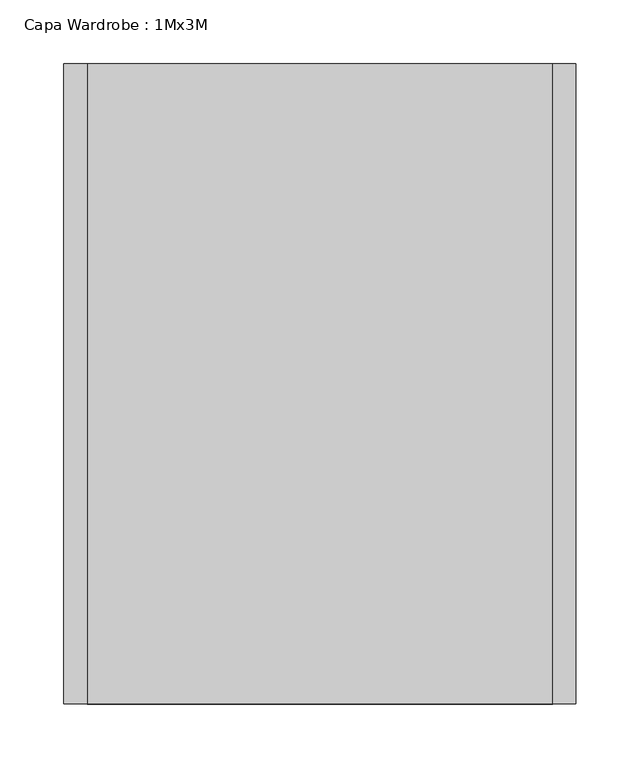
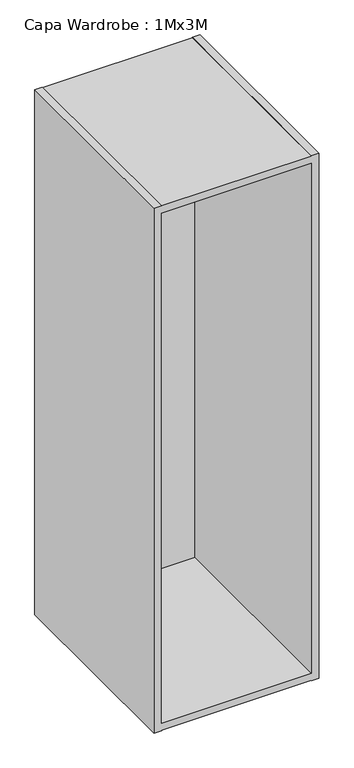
"""IFC4 building model written with IfcOpenShell, lengths in millimetres: furniture geometry, Capa Wardrobe : 1Mx3M."""

from ifc_helpers import new_model, si_unit, point, frame, frame_2d, origin, place, context, project, spatial, polyline, circle_curve, trimmed, segment, composite_curve, outline, extrude, faceted_brep, source, transform, mapped, element, save


def capa_wardrobe_1mx3m_da40f886(model_context):
    return source(origin(), model_context, "Body", "SolidModel", [
        extrude(outline(composite_curve([segment(polyline([(-250.0, 1244.0), (-250.0, 1224.0)]), True, "CONTINUOUS"), segment(trimmed(circle_curve(frame_2d((-258.0, 1224.0)), 8.0), [point((-250.0, 1224.0))], [point((-266.0, 1224.0))], False, "CARTESIAN"), True, "CONTINUOUS"), segment(polyline([(-266.0, 1224.0), (-266.0, 1244.0)]), True, "CONTINUOUS"), segment(trimmed(circle_curve(frame_2d((-258.0, 1244.0)), 8.0), [point((-266.0, 1244.0))], [point((-250.0, 1244.0))], False, "CARTESIAN"), True, "CONTINUOUS")], self_intersect=False)), frame((-182.0, 0.0, 0.0), z_axis=(1.0, 0.0, 0.0), x_axis=(0.0, 1.0, 0.0)), (0.0, 0.0, 1.0), 364.0),
        faceted_brep([(-182.0, 0.0, 1344.0), (-182.0, 0.0, 1343.0), (182.0, 0.0, 1343.0), (182.0, 0.0, 1344.0), (200.0, 0.0, 1344.0), (200.0, 0.0, 0.0), (182.0, 0.0, 0.0), (182.0, 0.0, 1.0), (-182.0, 0.0, 1.0), (-182.0, 0.0, 0.0), (-200.0, 0.0, 0.0), (-200.0, 0.0, 1344.0), (182.0, -10.0, 19.0), (182.0, -10.0, 1325.0), (-182.0, -10.0, 1325.0), (-182.0, -10.0, 19.0), (-182.0, -500.0, 1344.0), (-200.0, -500.0, 1344.0), (-200.0, -500.0, 0.0), (-182.0, -500.0, 0.0), (-182.0, -500.0, 1.0), (182.0, -500.0, 1.0), (182.0, -500.0, 0.0), (200.0, -500.0, 0.0), (200.0, -500.0, 1344.0), (182.0, -500.0, 1344.0), (182.0, -500.0, 1343.0), (-182.0, -500.0, 1343.0), (182.0, -500.0, 1325.0), (182.0, -500.0, 19.0), (-182.0, -500.0, 19.0), (-182.0, -500.0, 1325.0)], [[[0, 1, 2, 3, 4, 5, 6, 7, 8, 9, 10, 11]], [[12, 13, 14, 15]], [[16, 17, 18, 19, 20, 21, 22, 23, 24, 25, 26, 27], [28, 29, 30, 31]], [[17, 16, 0, 11]], [[18, 17, 11, 10]], [[23, 22, 6, 5]], [[24, 23, 5, 4]], [[19, 18, 10, 9]], [[20, 19, 9, 8]], [[21, 20, 8, 7]], [[22, 21, 7, 6]], [[25, 24, 4, 3]], [[26, 25, 3, 2]], [[27, 26, 2, 1]], [[16, 27, 1, 0]], [[29, 28, 13, 12]], [[30, 29, 12, 15]], [[31, 30, 15, 14]], [[28, 31, 14, 13]]]),
    ])


if __name__ == "__main__":
    model = new_model("IFC4")
    model_context = context("Model", 3, world=origin())
    ifc_project = project(units=[si_unit("LENGTHUNIT", "METRE", prefix="MILLI")], contexts=[model_context])
    site = spatial("IfcSite", under=ifc_project)
    building = spatial("IfcBuilding", under=site)
    placement = place(None, origin())
    capa_wardrobe_1mx3m_shape = capa_wardrobe_1mx3m_da40f886(model_context)
    element("IfcFurniture", 1, ObjectType="Capa Wardrobe : 1Mx3M", at=placement, inside=building, context=model_context, shape_type="MappedRepresentation", body=[
        mapped(capa_wardrobe_1mx3m_shape, transform((0.0, 0.0, 0.0), x_axis=(1.0, 0.0, 0.0), y_axis=(0.0, 1.0, 0.0), z_axis=(0.0, 0.0, 1.0))),
    ])
    save(model, "model.ifc")
